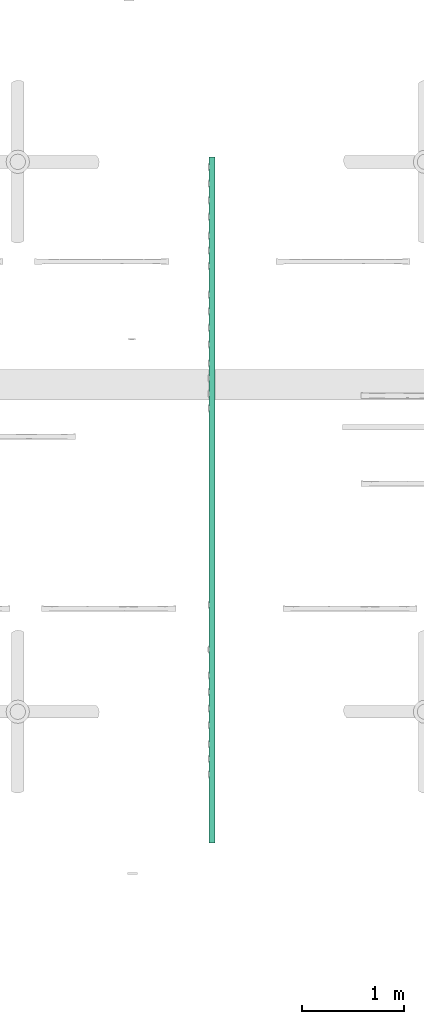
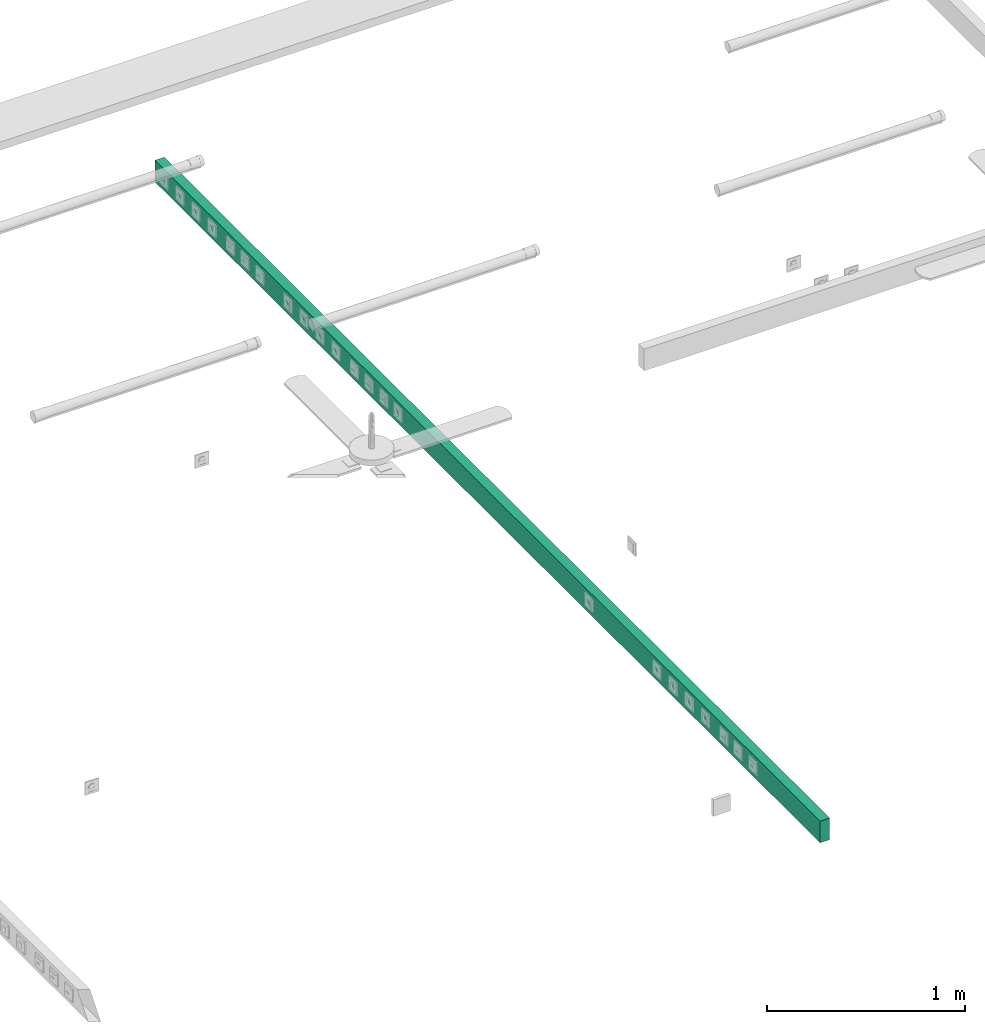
# One storey, part 15 of 166: 1 flow segment.
"""IFC2X3 building model written with IfcOpenShell, lengths in metres."""

from ifc_helpers import new_model, entity, si_unit, converted_unit, derived_unit, direction, frame, origin, origin_2d_with_axis, place, context, subcontext, project, spatial, rectangle, extrude, type_object, element, save


model = new_model("IFC2X3")

# Units and contexts
model_context = context("Model", 3, precision=1e-05, world=origin(), true_north=direction((6.12303176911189e-17, 1.0)))
body_context = subcontext(model_context, "Body", "Model", "MODEL_VIEW")
ifc_project = project(units=[si_unit("LENGTHUNIT", "METRE"), si_unit("AREAUNIT", "SQUARE_METRE"), si_unit("VOLUMEUNIT", "CUBIC_METRE"), converted_unit("PLANEANGLEUNIT", "DEGREE", entity("IfcRatioMeasure", 0.0174532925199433), si_unit("PLANEANGLEUNIT", "RADIAN"), dimensions=[0, 0, 0, 0, 0, 0, 0]), si_unit("MASSUNIT", "GRAM", prefix="KILO"), derived_unit("MASSDENSITYUNIT", [(si_unit("MASSUNIT", "GRAM", prefix="KILO"), 1), (si_unit("LENGTHUNIT", "METRE"), -3)]), si_unit("TIMEUNIT", "SECOND"), si_unit("FREQUENCYUNIT", "HERTZ"), si_unit("THERMODYNAMICTEMPERATUREUNIT", "DEGREE_CELSIUS"), derived_unit("THERMALTRANSMITTANCEUNIT", [(si_unit("MASSUNIT", "GRAM", prefix="KILO"), 1), (si_unit("THERMODYNAMICTEMPERATUREUNIT", "KELVIN"), -1), (si_unit("TIMEUNIT", "SECOND"), -3)]), derived_unit("VOLUMETRICFLOWRATEUNIT", [(si_unit("LENGTHUNIT", "METRE"), 3), (si_unit("TIMEUNIT", "SECOND"), -1)]), si_unit("ELECTRICCURRENTUNIT", "AMPERE"), si_unit("ELECTRICVOLTAGEUNIT", "VOLT"), si_unit("POWERUNIT", "WATT"), si_unit("FORCEUNIT", "NEWTON"), si_unit("ILLUMINANCEUNIT", "LUX"), si_unit("LUMINOUSFLUXUNIT", "LUMEN"), si_unit("LUMINOUSINTENSITYUNIT", "CANDELA"), derived_unit("USERDEFINED", [(si_unit("MASSUNIT", "GRAM", prefix="KILO"), -1), (si_unit("LENGTHUNIT", "METRE"), -2), (si_unit("TIMEUNIT", "SECOND"), 3), (si_unit("LUMINOUSFLUXUNIT", "LUMEN"), 1)]), derived_unit("LINEARVELOCITYUNIT", [(si_unit("LENGTHUNIT", "METRE"), 1), (si_unit("TIMEUNIT", "SECOND"), -1)]), si_unit("PRESSUREUNIT", "PASCAL"), derived_unit("USERDEFINED", [(si_unit("LENGTHUNIT", "METRE"), -2), (si_unit("MASSUNIT", "GRAM", prefix="KILO"), 1), (si_unit("TIMEUNIT", "SECOND"), -2)])], contexts=[model_context])

# Site, building, storey
site_placement = place(None, origin())
site = spatial("IfcSite", under=ifc_project, at=site_placement, Name="Default", CompositionType="ELEMENT")
building_placement = place(site_placement, origin())
building = spatial("IfcBuilding", under=site, at=building_placement, CompositionType="ELEMENT")
storey_placement = place(building_placement, frame((0.0, 0.0, 4.27)))
storey = spatial("IfcBuildingStorey", under=building, at=storey_placement, Name="01", CompositionType="ELEMENT", Elevation=4.27)

# Flow segment
cable_carrier_segment_type = type_object("IfcCableCarrierSegmentType", Name="Cable Tray with Fittings:Goulottes de câbles indéfini_Goulottes de câbles", PredefinedType="NOTDEFINED")
flow_segment_placement = place(storey_placement, origin())
element("IfcFlowSegment", 1, at=flow_segment_placement, inside=storey, type_object=cable_carrier_segment_type, Name="Cable Tray with Fittings:Goulottes de câbles indéfini_Goulottes de câbles", ObjectType="Cable Tray with Fittings:Goulottes de câbles indéfini_Goulottes de câbles", context=body_context, shape_type="SweptSolid", body=[
    extrude(rectangle(XDim=6.73599999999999, YDim=0.0560000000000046, at=origin_2d_with_axis()), frame((61.3947436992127, -189.830069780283, 0.366), z_axis=(0.0, 0.0, 1.0), x_axis=(0.0, 1.0, 0.0)), (0.0, 0.0, 1.0), 0.134),
])

save(model, "model.ifc")
